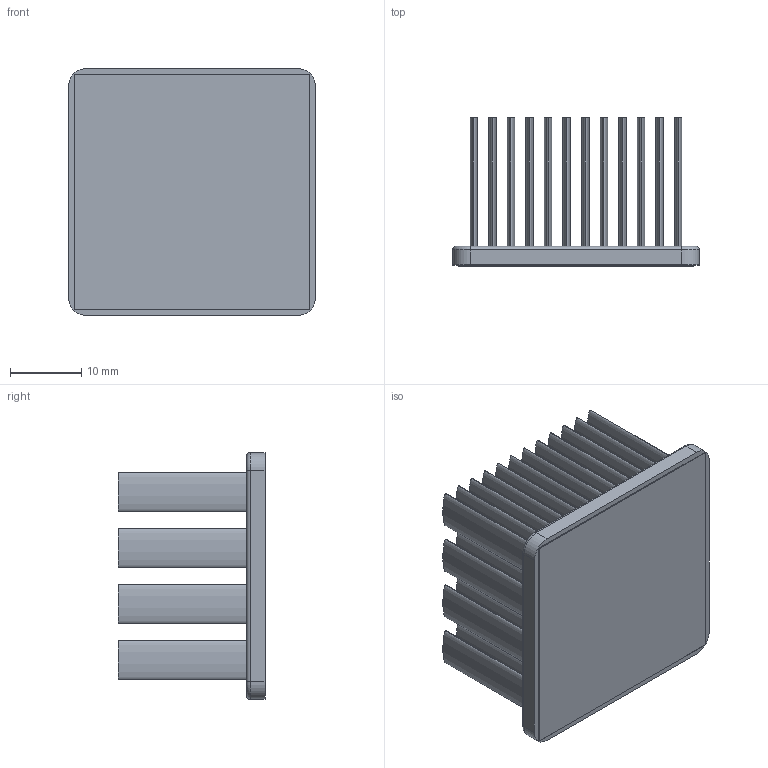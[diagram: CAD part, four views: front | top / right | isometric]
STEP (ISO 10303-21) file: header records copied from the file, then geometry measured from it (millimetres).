
FILE_DESCRIPTION (( 'STEP AP214' ), '1' );
FILE_NAME ('INM35001-21W-2.6.STEP', '2023-02-20T22:44:30', ( '' ), ( '' ), 'SwSTEP 2.0', 'SolidWorks 2020', '' );
FILE_SCHEMA (( 'AUTOMOTIVE_DESIGN' ));
Length unit declared in the file: inch
Products named in the file (1): INM35001-21W-2.6
Bounding box: 34.6 x 20.73 x 34.6 mm (x, y, z)
Volume: 7183.1 mm3; surface area: 14792.8 mm2
Topology: 2 solids, 2 shells, 168 faces, 340 edges, 224 vertices
Faces by surface type: bspline 96, plane 60, cylinder 8, torus 4
Entity records: 6823 total; most frequent: CARTESIAN_POINT 1981, ORIENTED_EDGE 680, EDGE_CURVE 340, DIRECTION 314, VERTEX_POINT 224, EDGE_LOOP 216, LENGTH_MEASURE_WITH_UNIT 172, DIMENSIONAL_EXPONENTS 172
